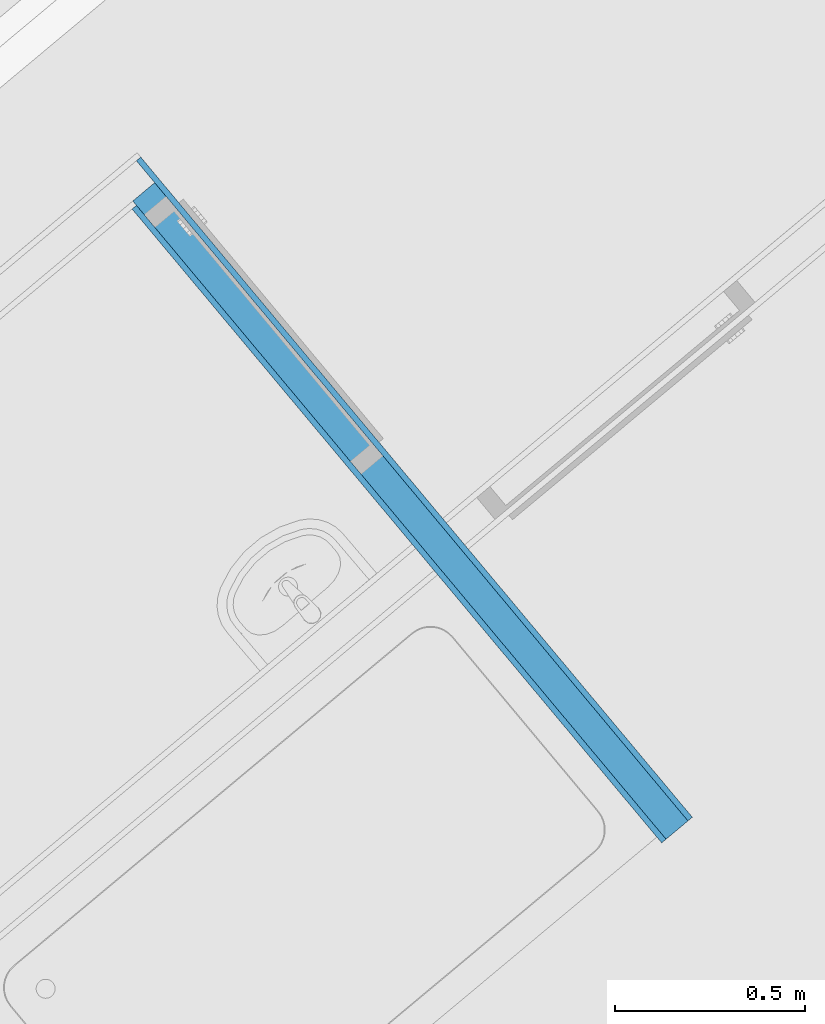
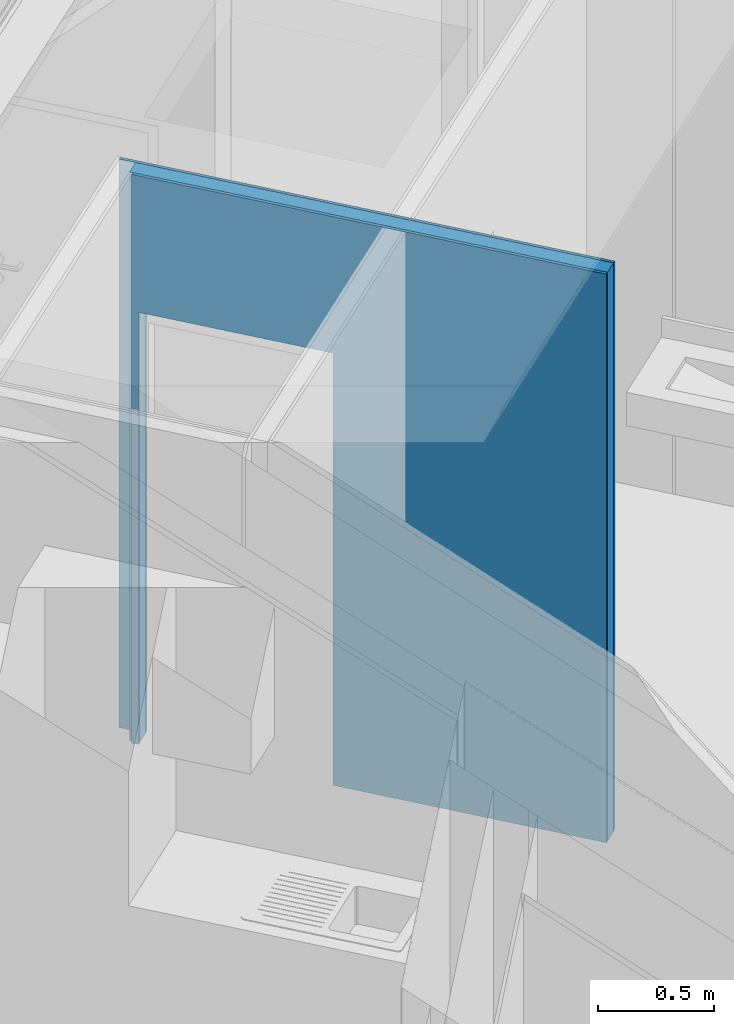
# One storey, part 2 of 50: 3 building element parts, 1 opening, 1 element without a shape of its own.
"""IFC4 building model written with IfcOpenShell, lengths in metres."""

from ifc_helpers import new_model, entity, si_unit, converted_unit, derived_unit, direction, frame, origin_with_axes, place, context, subcontext, project, spatial, polygons, material, type_object, element, aggregate, save


model = new_model("IFC4")

# Units and contexts
model_context = context("Model", 3, precision=1e-05, world=origin_with_axes(), true_north=direction((0.0, 1.0)))
body_context = subcontext(model_context, "Body", "Model", "MODEL_VIEW")
ifc_project = project(units=[si_unit("LENGTHUNIT", "METRE"), si_unit("AREAUNIT", "SQUARE_METRE"), si_unit("VOLUMEUNIT", "CUBIC_METRE"), converted_unit("PLANEANGLEUNIT", "DEGREE", entity("IfcPlaneAngleMeasure", 0.0174532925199), si_unit("PLANEANGLEUNIT", "RADIAN"), dimensions=[0, 0, 0, 0, 0, 0, 0]), converted_unit("TIMEUNIT", "Year", entity("IfcTimeMeasure", 31556926.0), si_unit("TIMEUNIT", "SECOND"), dimensions=[0, 0, 1, 0, 0, 0, 0]), si_unit("MASSUNIT", "GRAM", prefix="KILO"), si_unit("THERMODYNAMICTEMPERATUREUNIT", "DEGREE_CELSIUS"), si_unit("LUMINOUSINTENSITYUNIT", "LUMEN"), si_unit("ENERGYUNIT", "JOULE", prefix="MEGA"), derived_unit("THERMALCONDUCTANCEUNIT", [(si_unit("POWERUNIT", "WATT"), 1), (si_unit("LENGTHUNIT", "METRE"), -1), (si_unit("THERMODYNAMICTEMPERATUREUNIT", "KELVIN"), -1)]), derived_unit("SPECIFICHEATCAPACITYUNIT", [(si_unit("ENERGYUNIT", "JOULE"), 1), (si_unit("MASSUNIT", "GRAM", prefix="KILO"), -1), (si_unit("THERMODYNAMICTEMPERATUREUNIT", "KELVIN"), -1)]), derived_unit("MASSDENSITYUNIT", [(si_unit("MASSUNIT", "GRAM", prefix="KILO"), 1), (si_unit("VOLUMEUNIT", "CUBIC_METRE"), -1)])], contexts=[model_context])

# Site, building, storey
site_placement = place(None, frame((-0.00153261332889, -0.00661245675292, 0.0), z_axis=(0.0, 0.0, 1.0), x_axis=(1.0, 0.0, 0.0)))
site = spatial("IfcSite", under=ifc_project, at=site_placement, Name="Gelände", CompositionType="ELEMENT")
building_placement = place(site_placement, origin_with_axes())
building = spatial("IfcBuilding", under=site, at=building_placement, Name="Gebäude", CompositionType="ELEMENT")
storey_placement = place(building_placement, frame((0.0, 0.0, 8.66), z_axis=(0.0, 0.0, 1.0), x_axis=(1.0, 0.0, 0.0)))
storey = spatial("IfcBuildingStorey", under=building, at=storey_placement, Name="DG2", CompositionType="ELEMENT", Elevation=8.66)

# Wall, opening, building element parts
wall_type = type_object("IfcWallType", Name="IW LB 01 Leichtbautrennwand einfach 10,5 cm 105", PredefinedType="NOTDEFINED")
wall_placement = place(storey_placement, frame((2.56825967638, 20.9467525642, 0.0), z_axis=(0.0, 0.0, 1.0), x_axis=(0.641218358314, -0.767358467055, 0.0)))
wall = element("IfcWall", 1, at=wall_placement, inside=storey, type_object=wall_type, Name="Wand-014", PredefinedType="NOTDEFINED")
opening_placement = place(wall_placement, frame((0.476292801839, 0.0, 0.22), z_axis=(0.0, 0.0, 1.0), x_axis=(1.0, 0.0, 0.0)))
element("IfcOpeningElement", 2, at=opening_placement, cuts=wall, Name="Tür-019", context=body_context, identifier="Reference", shape_type="Tessellation", body=[
    polygons([(-0.445, -1.0690795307, 2.045), (-0.445, -1.0690795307, -0.22), (0.445, -1.0690795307, -0.22), (0.445, -1.0690795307, 2.045), (-0.445, 1.1740795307, 2.045), (-0.445, 1.1740795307, -0.22), (0.445, 1.1740795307, -0.22), (0.445, 1.1740795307, 2.045)], [[[1, 2, 3, 4]], [[5, 6, 2, 1]], [[6, 7, 3, 2]], [[7, 8, 4, 3]], [[8, 5, 1, 4]], [[7, 6, 5, 8]]], closed=True),
])
ifc_material_1 = material(Name="Gipskarton")
building_element_part_1_placement = place(wall_placement, origin_with_axes())
building_element_part_1 = element("IfcBuildingElementPart", 3, at=building_element_part_1_placement, material=ifc_material_1, Name="Gipskarton", PredefinedType="NOTDEFINED", context=body_context, shape_type="Tessellation", body=[
    polygons([(0.0312928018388, 0.105, 2.265), (0.0312928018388, 0.105, 0.22), (0.0312928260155, 0.105, 0.0), (-0.0899987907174, 0.105, 0.0), (-0.0899987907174, 0.105, 2.98), (2.17069774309, 0.105, 2.98), (2.17069774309, 0.105, 0.0), (0.921292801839, 0.105, 0.0), (0.921292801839, 0.105, 0.22), (0.921292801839, 0.105, 2.265), (0.0312928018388, 0.09, 2.265), (0.0312928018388, 0.09, 0.22), (0.0312928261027, 0.09, 0.0), (-0.0899989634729, 0.09, 0.0), (-0.0899989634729, 0.09, 2.98), (2.17069774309, 0.09, 2.98), (2.17069774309, 0.09, 0.0), (0.921292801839, 0.09, 0.0), (0.921292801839, 0.09, 0.22), (0.921292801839, 0.09, 2.265)], [[[1, 2, 3, 4, 5, 6, 7, 8, 9, 10]], [[2, 1, 11, 12]], [[2, 12, 13, 3]], [[13, 14, 4, 3]], [[4, 14, 15, 5]], [[16, 6, 5, 15]], [[7, 6, 16, 17]], [[8, 7, 17, 18]], [[19, 9, 8, 18]], [[10, 9, 19, 20]], [[1, 10, 20, 11]], [[20, 19, 18, 17, 16, 15, 14, 13, 12, 11]]], closed=True),
])
ifc_material_2 = material(Name="Mineralwolle weich")
building_element_part_2_placement = place(wall_placement, origin_with_axes())
building_element_part_2 = element("IfcBuildingElementPart", 4, at=building_element_part_2_placement, material=ifc_material_2, Name="Mineralwolle weich", PredefinedType="NOTDEFINED", context=body_context, shape_type="Tessellation", body=[
    polygons([(0.0312928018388, 0.09, 2.265), (0.0312928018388, 0.09, 0.22), (0.0312928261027, 0.09, 0.0), (-0.0149989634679, 0.09, 0.0), (-0.0149989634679, 0.09, 2.98), (2.17069774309, 0.09, 2.98), (2.17069774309, 0.09, 0.0), (0.921292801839, 0.09, 0.0), (0.921292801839, 0.09, 0.22), (0.921292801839, 0.09, 2.265), (0.0312928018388, 0.015, 2.265), (0.0312928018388, 0.015, 0.22), (0.0312928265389, 0.015, 0.0), (-0.0149998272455, 0.015, 0.0), (-0.0149998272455, 0.015, 2.98), (2.17069774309, 0.015, 2.98), (2.17069774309, 0.015, 0.0), (0.921292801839, 0.015, 0.0), (0.921292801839, 0.015, 0.22), (0.921292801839, 0.015, 2.265)], [[[1, 2, 3, 4, 5, 6, 7, 8, 9, 10]], [[2, 1, 11, 12]], [[2, 12, 13, 3]], [[13, 14, 4, 3]], [[4, 14, 15, 5]], [[16, 6, 5, 15]], [[7, 6, 16, 17]], [[8, 7, 17, 18]], [[19, 9, 8, 18]], [[10, 9, 19, 20]], [[1, 10, 20, 11]], [[20, 19, 18, 17, 16, 15, 14, 13, 12, 11]]], closed=True),
])
building_element_part_3_placement = place(wall_placement, origin_with_axes())
building_element_part_3 = element("IfcBuildingElementPart", 5, at=building_element_part_3_placement, material=ifc_material_1, Name="Gipskarton", PredefinedType="NOTDEFINED", context=body_context, shape_type="Tessellation", body=[
    polygons([(0.0312928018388, 0.015, 2.265), (0.0312928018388, 0.015, 0.22), (0.0312928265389, 0.015, 0.0), (1.7275551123e-07, 0.015, 0.0), (1.7275551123e-07, 0.015, 2.98), (2.17069774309, 0.015, 2.98), (2.17069774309, 0.015, 0.0), (0.921292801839, 0.015, 0.0), (0.921292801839, 0.015, 0.22), (0.921292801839, 0.015, 2.265), (0.0312928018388, -3.62216034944e-08, 2.265), (0.0312928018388, 3.35931389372e-08, 0.22), (0.0312928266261, 3.35931389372e-08, 0.0), (0.0, 0.0, 0.0), (0.0, 0.0, 2.98), (2.17069774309, 0.0, 2.98), (2.17069774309, 0.0, 0.0), (0.921292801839, -3.62216052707e-08, 0.0), (0.921292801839, -3.62216034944e-08, 0.22), (0.921292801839, -3.62216034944e-08, 2.265)], [[[1, 2, 3, 4, 5, 6, 7, 8, 9, 10]], [[2, 1, 11, 12]], [[2, 12, 13, 3]], [[13, 14, 4, 3]], [[4, 14, 15, 5]], [[16, 6, 5, 15]], [[7, 6, 16, 17]], [[8, 7, 17, 18]], [[19, 9, 8, 18]], [[10, 9, 19, 20]], [[1, 10, 20, 11]], [[20, 19, 18, 17, 16, 15, 14, 13, 12, 11]]], closed=True),
])
aggregate(wall, [building_element_part_1, building_element_part_2, building_element_part_3])

save(model, "model.ifc")
